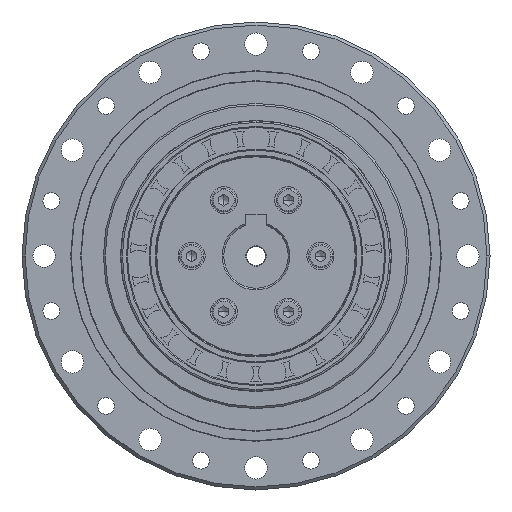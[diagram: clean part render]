
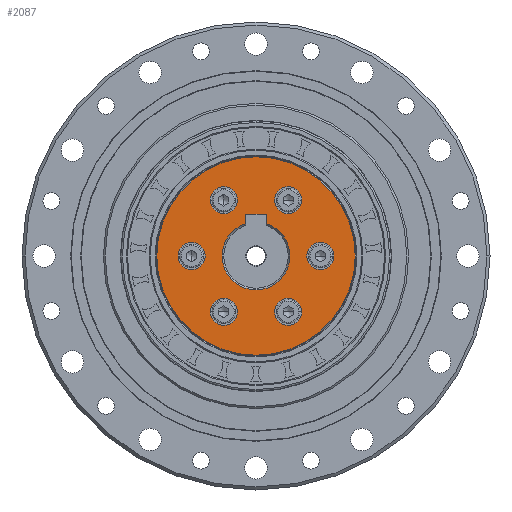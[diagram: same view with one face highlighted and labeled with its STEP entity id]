
A CAD part, left-side view. The second image highlights one B-rep face of the part: STEP entity #2087.
In plain terms, the highlighted planar face has unit normal (-1, 0, 0).
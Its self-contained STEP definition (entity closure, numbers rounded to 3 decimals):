
#2087=ADVANCED_FACE('NONE',(#4516,#4517,#4518,#4519,#4520,#4521,#4522,#4523),#4524,.T.);
#4516=FACE_OUTER_BOUND('',#7340,.T.);
#4517=FACE_BOUND('',#7341,.T.);
#4518=FACE_BOUND('',#7342,.T.);
#4519=FACE_BOUND('',#7343,.T.);
#4520=FACE_BOUND('',#7344,.T.);
#4521=FACE_BOUND('',#7345,.T.);
#4522=FACE_BOUND('',#7346,.T.);
#4523=FACE_BOUND('',#7347,.T.);
#4524=PLANE('',#7348);
#7340=EDGE_LOOP('',(#13323,#13324));
#7341=EDGE_LOOP('',(#13325,#13326,#13327,#13328,#13329));
#7342=EDGE_LOOP('',(#13330,#13331));
#7343=EDGE_LOOP('',(#13332,#13333));
#7344=EDGE_LOOP('',(#13334,#13335));
#7345=EDGE_LOOP('',(#13336,#13337));
#7346=EDGE_LOOP('',(#13338,#13339));
#7347=EDGE_LOOP('',(#13340,#13341));
#7348=AXIS2_PLACEMENT_3D('',#13342,#13343,#13344);
#13323=ORIENTED_EDGE('',*,*,#16575,.F.);
#13324=ORIENTED_EDGE('',*,*,#18257,.F.);
#13325=ORIENTED_EDGE('',*,*,#18246,.T.);
#13326=ORIENTED_EDGE('',*,*,#18255,.T.);
#13327=ORIENTED_EDGE('',*,*,#18252,.T.);
#13328=ORIENTED_EDGE('',*,*,#16620,.T.);
#13329=ORIENTED_EDGE('',*,*,#18258,.T.);
#13330=ORIENTED_EDGE('',*,*,#16606,.T.);
#13331=ORIENTED_EDGE('',*,*,#18259,.T.);
#13332=ORIENTED_EDGE('',*,*,#16601,.T.);
#13333=ORIENTED_EDGE('',*,*,#18260,.T.);
#13334=ORIENTED_EDGE('',*,*,#16596,.T.);
#13335=ORIENTED_EDGE('',*,*,#18261,.T.);
#13336=ORIENTED_EDGE('',*,*,#16591,.T.);
#13337=ORIENTED_EDGE('',*,*,#18262,.T.);
#13338=ORIENTED_EDGE('',*,*,#16586,.T.);
#13339=ORIENTED_EDGE('',*,*,#18263,.T.);
#13340=ORIENTED_EDGE('',*,*,#16581,.T.);
#13341=ORIENTED_EDGE('',*,*,#18264,.T.);
#13342=CARTESIAN_POINT('',(-0.5,0.,29.465));
#13343=DIRECTION('',(-1.0,0.,0.));
#13344=DIRECTION('',(0.,-1.0,0.0));
#16575=EDGE_CURVE('NONE',#19915,#19916,#19917,.T.);
#16581=EDGE_CURVE('NONE',#19926,#19924,#19927,.T.);
#16586=EDGE_CURVE('NONE',#19935,#19933,#19936,.T.);
#16591=EDGE_CURVE('NONE',#19944,#19942,#19945,.T.);
#16596=EDGE_CURVE('NONE',#19953,#19951,#19954,.T.);
#16601=EDGE_CURVE('NONE',#19962,#19960,#19963,.T.);
#16606=EDGE_CURVE('NONE',#19971,#19969,#19972,.T.);
#16620=EDGE_CURVE('NONE',#19994,#19992,#19995,.T.);
#18246=EDGE_CURVE('NONE',#22352,#22350,#22353,.T.);
#18252=EDGE_CURVE('NONE',#22360,#19994,#22361,.T.);
#18255=EDGE_CURVE('NONE',#22350,#22360,#22364,.T.);
#18257=EDGE_CURVE('NONE',#19916,#19915,#22366,.T.);
#18258=EDGE_CURVE('NONE',#19992,#22352,#22367,.T.);
#18259=EDGE_CURVE('NONE',#19969,#19971,#22368,.T.);
#18260=EDGE_CURVE('NONE',#19960,#19962,#22369,.T.);
#18261=EDGE_CURVE('NONE',#19951,#19953,#22370,.T.);
#18262=EDGE_CURVE('NONE',#19942,#19944,#22371,.T.);
#18263=EDGE_CURVE('NONE',#19933,#19935,#22372,.T.);
#18264=EDGE_CURVE('NONE',#19924,#19926,#22373,.T.);
#19915=VERTEX_POINT('NONE',#24544);
#19916=VERTEX_POINT('NONE',#24545);
#19917=CIRCLE('',#24546,29.265);
#19924=VERTEX_POINT('NONE',#24555);
#19926=VERTEX_POINT('NONE',#24558);
#19927=CIRCLE('',#24559,4.0);
#19933=VERTEX_POINT('NONE',#24566);
#19935=VERTEX_POINT('NONE',#24569);
#19936=CIRCLE('',#24570,4.0);
#19942=VERTEX_POINT('NONE',#24577);
#19944=VERTEX_POINT('NONE',#24580);
#19945=CIRCLE('',#24581,4.0);
#19951=VERTEX_POINT('NONE',#24588);
#19953=VERTEX_POINT('NONE',#24591);
#19954=CIRCLE('',#24592,4.0);
#19960=VERTEX_POINT('NONE',#24599);
#19962=VERTEX_POINT('NONE',#24602);
#19963=CIRCLE('',#24603,4.0);
#19969=VERTEX_POINT('NONE',#24610);
#19971=VERTEX_POINT('NONE',#24613);
#19972=CIRCLE('',#24614,4.0);
#19992=VERTEX_POINT('NONE',#24638);
#19994=VERTEX_POINT('NONE',#24641);
#19995=CIRCLE('',#24642,10.);
#22350=VERTEX_POINT('NONE',#28473);
#22352=VERTEX_POINT('NONE',#28476);
#22353=LINE('',#28477,#28478);
#22360=VERTEX_POINT('NONE',#28492);
#22361=LINE('',#28493,#28494);
#22364=LINE('',#28498,#28499);
#22366=CIRCLE('',#28501,29.265);
#22367=CIRCLE('',#28502,10.);
#22368=CIRCLE('',#28503,4.0);
#22369=CIRCLE('',#28504,4.0);
#22370=CIRCLE('',#28505,4.0);
#22371=CIRCLE('',#28506,4.0);
#22372=CIRCLE('',#28507,4.0);
#22373=CIRCLE('',#28508,4.0);
#24544=CARTESIAN_POINT('',(-0.5,29.265,0.));
#24545=CARTESIAN_POINT('',(-0.5,-29.265,0.));
#24546=AXIS2_PLACEMENT_3D('',#30603,#30604,#30605);
#24555=CARTESIAN_POINT('',(-0.5,-5.5,-16.454));
#24558=CARTESIAN_POINT('',(-0.5,-13.5,-16.454));
#24559=AXIS2_PLACEMENT_3D('',#30612,#30613,#30614);
#24566=CARTESIAN_POINT('',(-0.5,23.0,0.));
#24569=CARTESIAN_POINT('',(-0.5,15.0,0.));
#24570=AXIS2_PLACEMENT_3D('',#30620,#30621,#30622);
#24577=CARTESIAN_POINT('',(-0.5,-5.5,16.454));
#24580=CARTESIAN_POINT('',(-0.5,-13.5,16.454));
#24581=AXIS2_PLACEMENT_3D('',#30628,#30629,#30630);
#24588=CARTESIAN_POINT('',(-0.5,13.5,16.454));
#24591=CARTESIAN_POINT('',(-0.5,5.5,16.454));
#24592=AXIS2_PLACEMENT_3D('',#30636,#30637,#30638);
#24599=CARTESIAN_POINT('',(-0.5,13.5,-16.454));
#24602=CARTESIAN_POINT('',(-0.5,5.5,-16.454));
#24603=AXIS2_PLACEMENT_3D('',#30644,#30645,#30646);
#24610=CARTESIAN_POINT('',(-0.5,-15.0,0.));
#24613=CARTESIAN_POINT('',(-0.5,-23.0,0.));
#24614=AXIS2_PLACEMENT_3D('',#30652,#30653,#30654);
#24638=CARTESIAN_POINT('',(-0.5,0.,-10.));
#24641=CARTESIAN_POINT('',(-0.5,-3.,9.539));
#24642=AXIS2_PLACEMENT_3D('',#30675,#30676,#30677);
#28473=CARTESIAN_POINT('',(-0.5,3.,12.3));
#28476=CARTESIAN_POINT('',(-0.5,3.,9.539));
#28477=CARTESIAN_POINT('',(-0.5,3.,29.465));
#28478=VECTOR('',#32510,1000.0);
#28492=CARTESIAN_POINT('',(-0.5,-3.,12.3));
#28493=CARTESIAN_POINT('',(-0.5,-3.,29.465));
#28494=VECTOR('',#32512,1000.0);
#28498=CARTESIAN_POINT('',(-0.5,0.,12.3));
#28499=VECTOR('',#32514,1000.0);
#28501=AXIS2_PLACEMENT_3D('',#32515,#32516,#32517);
#28502=AXIS2_PLACEMENT_3D('',#32518,#32519,#32520);
#28503=AXIS2_PLACEMENT_3D('',#32521,#32522,#32523);
#28504=AXIS2_PLACEMENT_3D('',#32524,#32525,#32526);
#28505=AXIS2_PLACEMENT_3D('',#32527,#32528,#32529);
#28506=AXIS2_PLACEMENT_3D('',#32530,#32531,#32532);
#28507=AXIS2_PLACEMENT_3D('',#32533,#32534,#32535);
#28508=AXIS2_PLACEMENT_3D('',#32536,#32537,#32538);
#30603=CARTESIAN_POINT('',(-0.5,0.,0.));
#30604=DIRECTION('',(1.0,0.,0.));
#30605=DIRECTION('',(0.,1.0,0.));
#30612=CARTESIAN_POINT('',(-0.5,-9.5,-16.454));
#30613=DIRECTION('',(1.0,0.0,0.));
#30614=DIRECTION('',(0.0,-1.0,0.0));
#30620=CARTESIAN_POINT('',(-0.5,19.0,0.));
#30621=DIRECTION('',(1.0,0.0,0.));
#30622=DIRECTION('',(0.0,-1.0,0.0));
#30628=CARTESIAN_POINT('',(-0.5,-9.5,16.454));
#30629=DIRECTION('',(1.0,0.0,0.));
#30630=DIRECTION('',(0.0,-1.0,0.0));
#30636=CARTESIAN_POINT('',(-0.5,9.5,16.454));
#30637=DIRECTION('',(1.0,0.0,0.));
#30638=DIRECTION('',(0.0,-1.0,0.0));
#30644=CARTESIAN_POINT('',(-0.5,9.5,-16.454));
#30645=DIRECTION('',(1.0,0.0,0.));
#30646=DIRECTION('',(0.0,-1.0,0.0));
#30652=CARTESIAN_POINT('',(-0.5,-19.0,0.));
#30653=DIRECTION('',(1.0,0.0,0.));
#30654=DIRECTION('',(0.0,-1.0,0.0));
#30675=CARTESIAN_POINT('',(-0.5,0.,0.));
#30676=DIRECTION('',(1.0,0.,0.));
#30677=DIRECTION('',(0.,0.0,-1.0));
#32510=DIRECTION('',(0.,0.,1.0));
#32512=DIRECTION('',(0.,0.,-1.0));
#32514=DIRECTION('',(0.,-1.0,0.0));
#32515=CARTESIAN_POINT('',(-0.5,0.,0.));
#32516=DIRECTION('',(1.0,0.,0.));
#32517=DIRECTION('',(0.,1.0,0.));
#32518=CARTESIAN_POINT('',(-0.5,0.,0.));
#32519=DIRECTION('',(1.0,0.,0.));
#32520=DIRECTION('',(0.,0.0,-1.0));
#32521=CARTESIAN_POINT('',(-0.5,-19.0,0.));
#32522=DIRECTION('',(1.0,0.0,0.));
#32523=DIRECTION('',(0.0,-1.0,0.0));
#32524=CARTESIAN_POINT('',(-0.5,9.5,-16.454));
#32525=DIRECTION('',(1.0,0.0,0.));
#32526=DIRECTION('',(0.0,-1.0,0.0));
#32527=CARTESIAN_POINT('',(-0.5,9.5,16.454));
#32528=DIRECTION('',(1.0,0.0,0.));
#32529=DIRECTION('',(0.0,-1.0,0.0));
#32530=CARTESIAN_POINT('',(-0.5,-9.5,16.454));
#32531=DIRECTION('',(1.0,0.0,0.));
#32532=DIRECTION('',(0.0,-1.0,0.0));
#32533=CARTESIAN_POINT('',(-0.5,19.0,0.));
#32534=DIRECTION('',(1.0,0.0,0.));
#32535=DIRECTION('',(0.0,-1.0,0.0));
#32536=CARTESIAN_POINT('',(-0.5,-9.5,-16.454));
#32537=DIRECTION('',(1.0,0.0,0.));
#32538=DIRECTION('',(0.0,-1.0,0.0));
